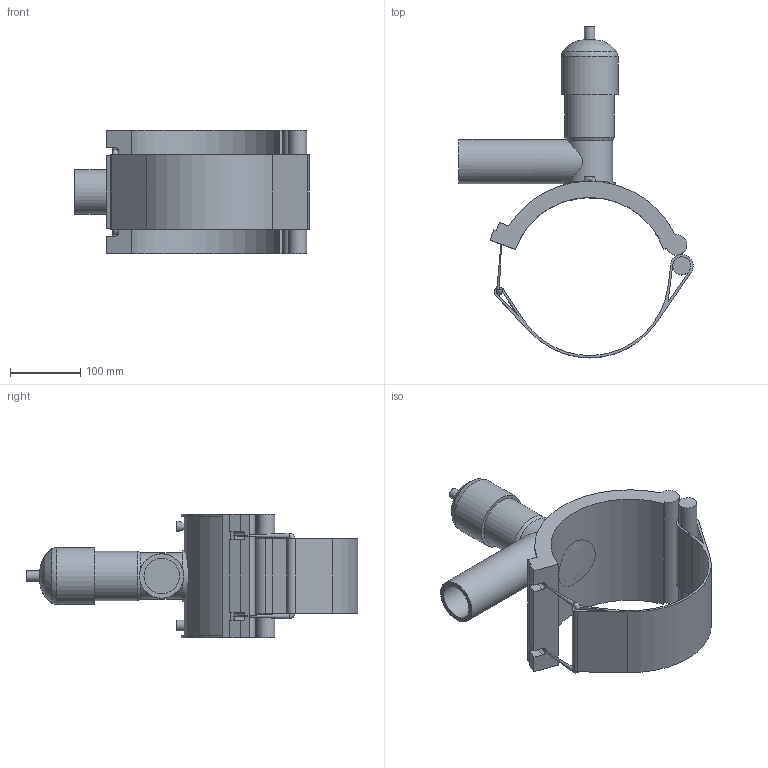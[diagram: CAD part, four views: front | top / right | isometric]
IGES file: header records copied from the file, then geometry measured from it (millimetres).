
Global section: file name: 495404225063.ipt; native system: Autodesk Inventor 2015; preprocessor: unknown; author: KIM; date: 20171106.094313; units: millimetre
Bounding box: 333.32 x 472.37 x 176 mm (x, y, z)
Volume: 2520855.5 mm3; surface area: 398335.5 mm2
Topology: 3 solids, 4 shells, 81 faces, 201 edges, 133 vertices
Faces by surface type: plane 45, cylinder 20, revolution 13, cone 3
Full cylindrical faces by diameter (mm): 4 x2, 7.65 x2, 14.64 x1, 25.615 x1, 63 x1, 70.76 x1, 73.2 x1, 81.333 x1
